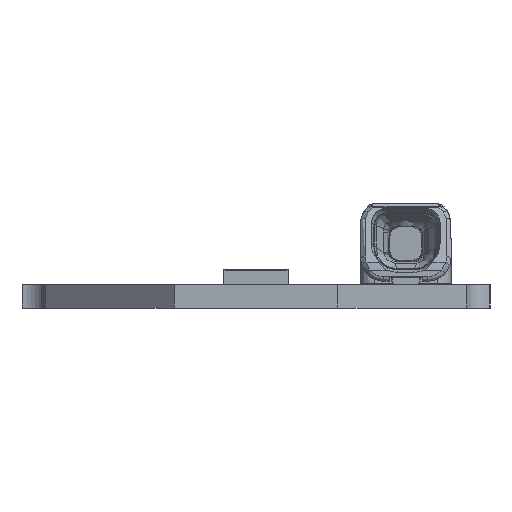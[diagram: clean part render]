
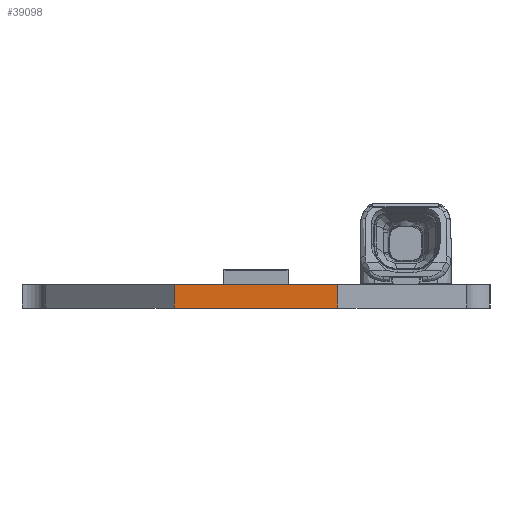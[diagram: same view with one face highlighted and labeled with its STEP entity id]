
A CAD part, left-side view. The second image highlights one B-rep face of the part: STEP entity #39098.
In plain terms, the highlighted planar face has unit normal (-1, 0, 0).
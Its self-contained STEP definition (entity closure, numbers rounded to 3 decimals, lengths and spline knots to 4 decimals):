
#1848=ORIENTED_EDGE('',*,*,#9589,.F.);
#1849=ORIENTED_EDGE('',*,*,#9879,.F.);
#1850=ORIENTED_EDGE('',*,*,#9787,.T.);
#1851=ORIENTED_EDGE('',*,*,#9878,.T.);
#9589=EDGE_CURVE('',#13739,#13740,#16443,.T.);
#9787=EDGE_CURVE('',#13847,#13937,#16569,.T.);
#9878=EDGE_CURVE('',#13937,#13740,#16660,.T.);
#9879=EDGE_CURVE('',#13847,#13739,#16661,.T.);
#13739=VERTEX_POINT('',#50169);
#13740=VERTEX_POINT('',#50171);
#13847=VERTEX_POINT('',#50386);
#13937=VERTEX_POINT('',#50566);
#16443=LINE('',#50170,#19917);
#16569=LINE('',#50567,#20043);
#16660=LINE('',#50748,#20134);
#16661=LINE('',#50750,#20135);
#19917=VECTOR('',#42730,1000.);
#20043=VECTOR('',#43002,1000.);
#20134=VECTOR('',#43273,1000.);
#20135=VECTOR('',#43276,1000.);
#23282=EDGE_LOOP('',(#1848,#1849,#1850,#1851));
#25022=FACE_BOUND('',#23282,.T.);
#26660=PLANE('',#40769);
#39098=ADVANCED_FACE('',(#25022),#26660,.T.);
#40769=AXIS2_PLACEMENT_3D('',#50749,#43274,#43275);
#42730=DIRECTION('',(0.,-1.,0.));
#43002=DIRECTION('',(0.,-1.,0.));
#43273=DIRECTION('',(0.,0.,1.));
#43274=DIRECTION('',(-1.,0.,0.));
#43275=DIRECTION('',(0.,0.,1.));
#43276=DIRECTION('',(0.,0.,1.));
#50169=CARTESIAN_POINT('',(-279.8,3.5,0.));
#50170=CARTESIAN_POINT('',(-279.8,3.5,0.));
#50171=CARTESIAN_POINT('',(-279.8,-3.5,0.));
#50386=CARTESIAN_POINT('',(-279.8,3.5,-1.));
#50566=CARTESIAN_POINT('',(-279.8,-3.5,-1.));
#50567=CARTESIAN_POINT('',(-279.8,3.5,-1.));
#50748=CARTESIAN_POINT('',(-279.8,-3.5,-1.));
#50749=CARTESIAN_POINT('',(-279.8,3.5,-1.));
#50750=CARTESIAN_POINT('',(-279.8,3.5,-1.));
